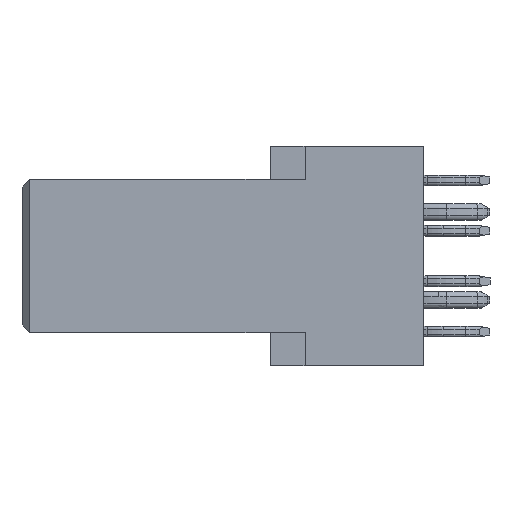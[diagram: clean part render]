
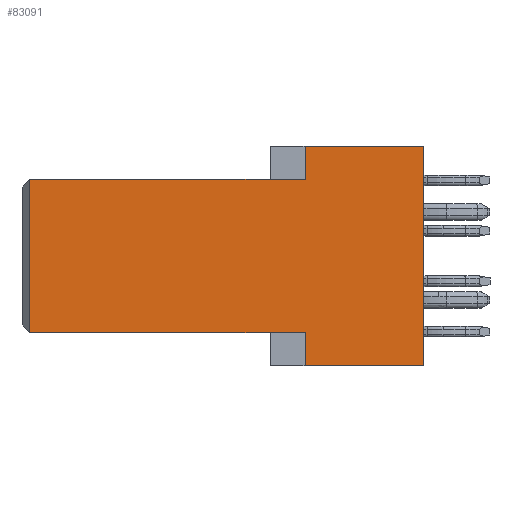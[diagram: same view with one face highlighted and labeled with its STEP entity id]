
A CAD part, left-side view. The second image highlights one B-rep face of the part: STEP entity #83091.
In plain terms, the highlighted planar face has unit normal (-1, 0, 0).
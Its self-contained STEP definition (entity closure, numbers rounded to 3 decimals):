
#7249 = VECTOR ( 'NONE', #19944, 1000. ) ;
#7255 = VECTOR ( 'NONE', #19900, 1000. ) ;
#15446 = AXIS2_PLACEMENT_3D ( 'NONE', #46800, #46831, #46834 ) ;
#19884 = LINE ( 'NONE', #19898, #7255 ) ;
#19898 = CARTESIAN_POINT ( 'NONE',  ( -83.264, 13.91, 8.32 ) ) ;
#19900 = DIRECTION ( 'NONE',  ( 0., 0., -1. ) ) ;
#19919 = CARTESIAN_POINT ( 'NONE',  ( -83.264, 4.8, 1.25 ) ) ;
#19935 = LINE ( 'NONE', #19919, #7249 ) ;
#19944 = DIRECTION ( 'NONE',  ( 0., -1., 0. ) ) ;
#20045 = LINE ( 'NONE', #20069, #54966 ) ;
#20069 = CARTESIAN_POINT ( 'NONE',  ( -83.264, 3.5, 0. ) ) ;
#20071 = LINE ( 'NONE', #20093, #54960 ) ;
#20073 = DIRECTION ( 'NONE',  ( 0., 0., -1. ) ) ;
#20093 = CARTESIAN_POINT ( 'NONE',  ( -83.264, 4.8, 0. ) ) ;
#20095 = DIRECTION ( 'NONE',  ( 0., -1., 0. ) ) ;
#20198 = LINE ( 'NONE', #20200, #54931 ) ;
#20200 = CARTESIAN_POINT ( 'NONE',  ( -83.264, 4.8, 7.07 ) ) ;
#20202 = DIRECTION ( 'NONE',  ( 0., 1., 0. ) ) ;
#20215 = LINE ( 'NONE', #20217, #54928 ) ;
#20217 = CARTESIAN_POINT ( 'NONE',  ( -83.264, 3.5, 8.32 ) ) ;
#20218 = DIRECTION ( 'NONE',  ( 0., 0., -1. ) ) ;
#20274 = LINE ( 'NONE', #20276, #54917 ) ;
#20276 = CARTESIAN_POINT ( 'NONE',  ( -83.264, 4.8, 8.32 ) ) ;
#20278 = DIRECTION ( 'NONE',  ( 0., 1., 0. ) ) ;
#20391 = LINE ( 'NONE', #20395, #54894 ) ;
#20395 = CARTESIAN_POINT ( 'NONE',  ( -83.264, -1., 8.32 ) ) ;
#20396 = DIRECTION ( 'NONE',  ( 0., 0., 1. ) ) ;
#29959 = CARTESIAN_POINT ( 'NONE',  ( -83.264, 3.5, 0. ) ) ;
#30167 = CARTESIAN_POINT ( 'NONE',  ( -83.264, 13.91, 1.25 ) ) ;
#30174 = CARTESIAN_POINT ( 'NONE',  ( -83.264, -1., 8.32 ) ) ;
#30406 = CARTESIAN_POINT ( 'NONE',  ( -83.264, 13.91, 7.07 ) ) ;
#30619 = CARTESIAN_POINT ( 'NONE',  ( -83.264, 3.5, 8.32 ) ) ;
#30662 = CARTESIAN_POINT ( 'NONE',  ( -83.264, 3.5, 1.25 ) ) ;
#30725 = CARTESIAN_POINT ( 'NONE',  ( -83.264, 3.5, 7.07 ) ) ;
#30834 = CARTESIAN_POINT ( 'NONE',  ( -83.264, -1., 0. ) ) ;
#41764 = EDGE_CURVE ( 'NONE', #59042, #58697, #19884, .T. ) ;
#41791 = EDGE_CURVE ( 'NONE', #58697, #59382, #19935, .T. ) ;
#41838 = EDGE_CURVE ( 'NONE', #59382, #58414, #20045, .T. ) ;
#41844 = EDGE_CURVE ( 'NONE', #58414, #59538, #20071, .T. ) ;
#41898 = EDGE_CURVE ( 'NONE', #59452, #59042, #20198, .T. ) ;
#41905 = EDGE_CURVE ( 'NONE', #59324, #59452, #20215, .T. ) ;
#41928 = EDGE_CURVE ( 'NONE', #58707, #59324, #20274, .T. ) ;
#41988 = EDGE_CURVE ( 'NONE', #59538, #58707, #20391, .T. ) ;
#46800 = CARTESIAN_POINT ( 'NONE',  ( -83.264, 4.8, 8.32 ) ) ;
#46822 = FACE_OUTER_BOUND ( 'NONE', #59648, .T. ) ;
#46824 = PLANE ( 'NONE',  #15446 ) ;
#46831 = DIRECTION ( 'NONE',  ( -1., 0., 0. ) ) ;
#46834 = DIRECTION ( 'NONE',  ( 0., -1., 0. ) ) ;
#50952 = ORIENTED_EDGE ( 'NONE', *, *, #41791, .T. ) ;
#51405 = ORIENTED_EDGE ( 'NONE', *, *, #41898, .T. ) ;
#51579 = ORIENTED_EDGE ( 'NONE', *, *, #41905, .T. ) ;
#52439 = ORIENTED_EDGE ( 'NONE', *, *, #41928, .T. ) ;
#53389 = ORIENTED_EDGE ( 'NONE', *, *, #41764, .T. ) ;
#53422 = ORIENTED_EDGE ( 'NONE', *, *, #41838, .T. ) ;
#53518 = ORIENTED_EDGE ( 'NONE', *, *, #41988, .T. ) ;
#53521 = ORIENTED_EDGE ( 'NONE', *, *, #41844, .T. ) ;
#54894 = VECTOR ( 'NONE', #20396, 1000. ) ;
#54917 = VECTOR ( 'NONE', #20278, 1000. ) ;
#54928 = VECTOR ( 'NONE', #20218, 1000. ) ;
#54931 = VECTOR ( 'NONE', #20202, 1000. ) ;
#54960 = VECTOR ( 'NONE', #20095, 1000. ) ;
#54966 = VECTOR ( 'NONE', #20073, 1000. ) ;
#58414 = VERTEX_POINT ( 'NONE', #29959 ) ;
#58697 = VERTEX_POINT ( 'NONE', #30167 ) ;
#58707 = VERTEX_POINT ( 'NONE', #30174 ) ;
#59042 = VERTEX_POINT ( 'NONE', #30406 ) ;
#59324 = VERTEX_POINT ( 'NONE', #30619 ) ;
#59382 = VERTEX_POINT ( 'NONE', #30662 ) ;
#59452 = VERTEX_POINT ( 'NONE', #30725 ) ;
#59538 = VERTEX_POINT ( 'NONE', #30834 ) ;
#59648 = EDGE_LOOP ( 'NONE', ( #53389, #50952, #53422, #53521, #53518, #52439, #51579, #51405 ) ) ;
#83091 = ADVANCED_FACE ( 'NONE', ( #46822 ), #46824, .T. ) ;
